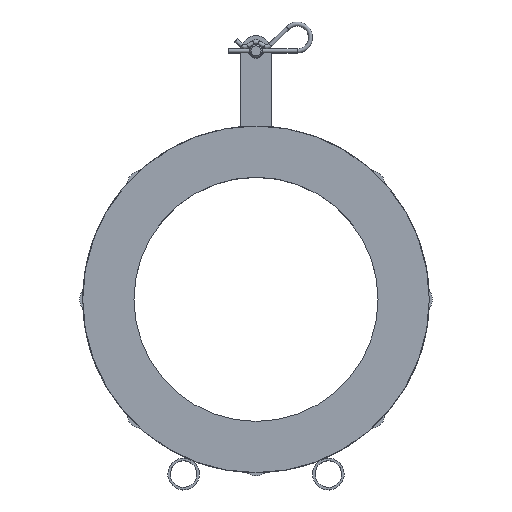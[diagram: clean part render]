
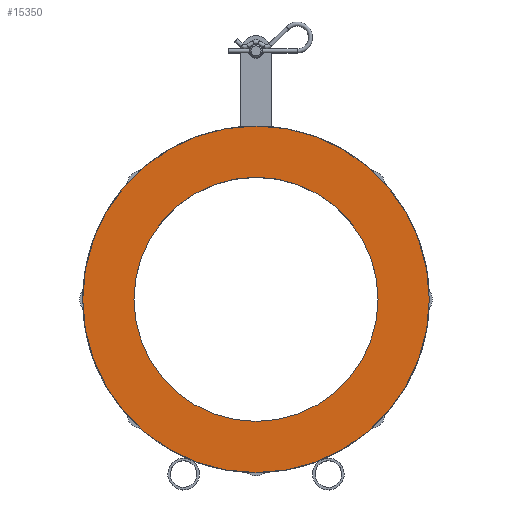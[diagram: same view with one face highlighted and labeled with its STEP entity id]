
A CAD part, top view. The second image highlights one B-rep face of the part: STEP entity #15350.
In plain terms, the highlighted planar face has unit normal (0, 0, 1).
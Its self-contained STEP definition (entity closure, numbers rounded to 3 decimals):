
#317=PLANE('',#16184);
#417=FACE_BOUND('',#2870,.T.);
#796=CIRCLE('',#16181,96.5);
#797=CIRCLE('',#16183,137.);
#1954=FACE_OUTER_BOUND('',#2869,.T.);
#2869=EDGE_LOOP('',(#13787));
#2870=EDGE_LOOP('',(#13788));
#7267=VERTEX_POINT('',#36019);
#7268=VERTEX_POINT('',#36023);
#9475=EDGE_CURVE('',#7267,#7267,#796,.T.);
#9476=EDGE_CURVE('',#7268,#7268,#797,.T.);
#13787=ORIENTED_EDGE('',*,*,#9476,.F.);
#13788=ORIENTED_EDGE('',*,*,#9475,.T.);
#15350=ADVANCED_FACE('',(#1954,#417),#317,.F.);
#16181=AXIS2_PLACEMENT_3D('',#36021,#18776,#18777);
#16183=AXIS2_PLACEMENT_3D('',#36024,#18780,#18781);
#16184=AXIS2_PLACEMENT_3D('',#36030,#18785,#18786);
#18776=DIRECTION('center_axis',(0.,0.,-1.));
#18777=DIRECTION('ref_axis',(-1.,0.,0.));
#18780=DIRECTION('center_axis',(0.,0.,-1.));
#18781=DIRECTION('ref_axis',(-1.,0.,0.));
#18785=DIRECTION('center_axis',(0.,0.,-1.));
#18786=DIRECTION('ref_axis',(-1.,0.,0.));
#36019=CARTESIAN_POINT('',(96.5,0.,11.5));
#36021=CARTESIAN_POINT('Origin',(0.,0.,11.5));
#36023=CARTESIAN_POINT('',(137.,0.,11.5));
#36024=CARTESIAN_POINT('Origin',(0.,0.,11.5));
#36030=CARTESIAN_POINT('Origin',(0.,0.,11.5));
